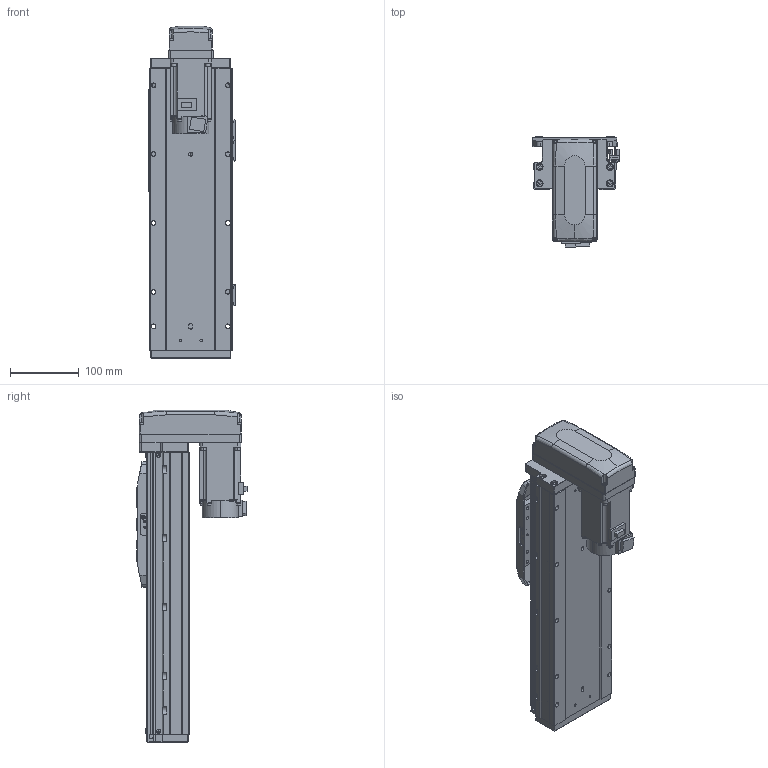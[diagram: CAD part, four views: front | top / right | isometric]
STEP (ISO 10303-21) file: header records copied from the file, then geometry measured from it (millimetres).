
FILE_DESCRIPTION (( 'STEP AP203' ), '1' );
FILE_NAME ('GTH12-200-BM-M40-C4.step', '2022-09-29T02:00:31', ( '微软用户' ), ( '微软中国' ), 'SwSTEP 2.0', 'SolidWorks 2020', '' );
FILE_SCHEMA (( 'CONFIG_CONTROL_DESIGN' ));
Length unit declared in the file: millimetre
Products named in the file (18): GTH120-013; GTH50-024; GBT 70.1-M3℅6; GBT96.1-2002 3×0.8; GBT 70.1-M5×16; BTH-M3X5X6; GTH120-001_200; GBT 70.3-M3℅8; hg-kn43j_-s100_; GTH120-003; GTH80-022; CTHA86-033_M40B; GTH120-006; GTH80-028; GTH120-027-1_GTH120-027-2; GTH120-004; GTH50-023; GTH12-200-BM-M40-C4
Assembly tree (59 placements, depth 2):
  GTH12-200-BM-M40-C4
    GTH120-001_200
    GTH120-003
    GTH120-006
    GTH120-004
    GTH120-013
    GBT 70.1-M3℅6  x14
    GBT 70.1-M5×16  x10
    GBT 70.3-M3℅8  x4
    GTH80-022
    GTH80-028  x2
    GTH50-023  x3
    GTH50-024  x3
    GBT96.1-2002 3×0.8  x6
    BTH-M3X5X6  x8
    hg-kn43j_-s100_
    CTHA86-033_M40B
    GTH120-027-1_GTH120-027-2
Bounding box: 125.7 x 159.8 x 482 mm (x, y, z)
Volume: 3928068 mm3; surface area: 438973.6 mm2
Topology: 61 solids, 61 shells, 2359 faces, 5472 edges, 3355 vertices
Faces by surface type: plane 1230, cylinder 665, cone 276, torus 174, sphere 8, bspline 6
Entity records: 42990 total; most frequent: CARTESIAN_POINT 7316, DIRECTION 7068, ORIENTED_EDGE 6554, EDGE_CURVE 3277, AXIS2_PLACEMENT_3D 2472, LINE 2124, VECTOR 2124, VERTEX_POINT 2076
